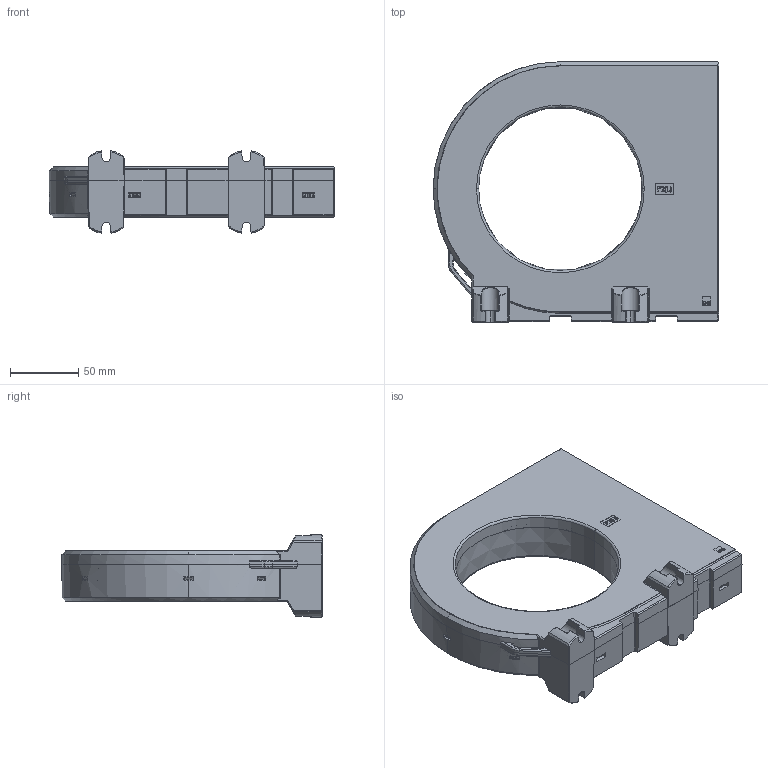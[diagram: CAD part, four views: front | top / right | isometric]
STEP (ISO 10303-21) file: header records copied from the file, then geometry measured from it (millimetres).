
FILE_DESCRIPTION (( 'STEP AP214' ), '1' );
FILE_NAME ('W120_step.STEP', '2015-01-20T13:51:56', ( 'User' ), ( 'Bender' ), 'SwSTEP 2.0', 'SolidWorks 2014', '' );
FILE_SCHEMA (( 'AUTOMOTIVE_DESIGN' ));
Length unit declared in the file: millimetre
Products named in the file (5): W120_UT_8polig_040205; W120_step; W120_OT_8polig_einfach_040205
Assembly tree (2 placements, depth 2):
  W120_UT_8polig_040205
  W120_step
    W120_UT_8polig_040205
    W120_OT_8polig_einfach_040205
  W120_OT_8polig_einfach_040205
Bounding box: 210 x 191.5 x 60.58 mm (x, y, z)
Volume: 248655.6 mm3; surface area: 206517.8 mm2
Topology: 2 solids, 2 shells, 1843 faces, 5173 edges, 3376 vertices
Faces by surface type: plane 1178, cylinder 386, bspline 169, cone 62, torus 40, sphere 8
Entity records: 64681 total; most frequent: CARTESIAN_POINT 19489, ORIENTED_EDGE 10330, DIRECTION 8061, EDGE_CURVE 5165, LINE 3677, VECTOR 3677, VERTEX_POINT 3376, AXIS2_PLACEMENT_3D 2192
